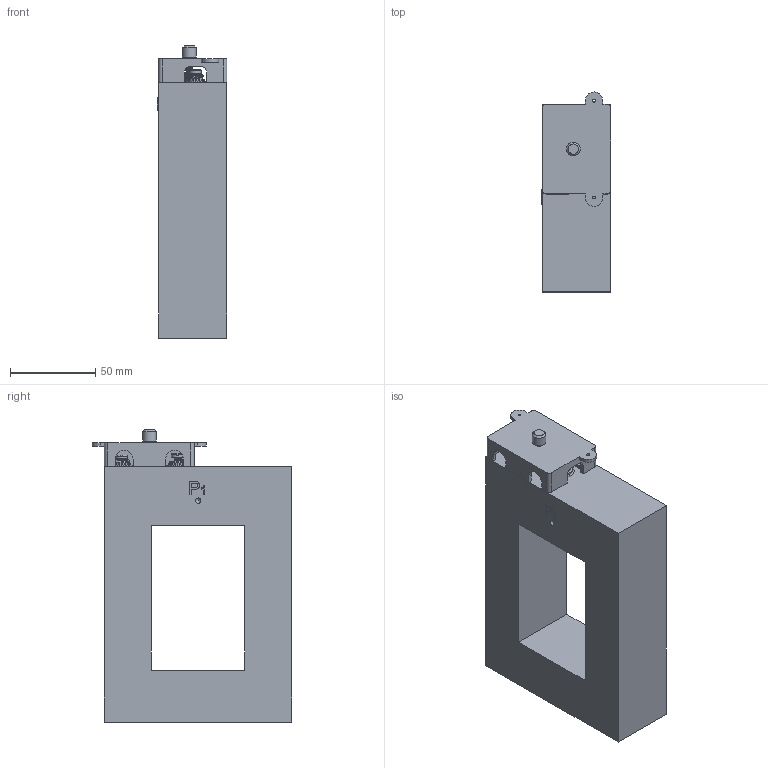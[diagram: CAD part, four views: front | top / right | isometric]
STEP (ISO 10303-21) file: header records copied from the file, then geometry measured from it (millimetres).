
FILE_DESCRIPTION(/* description */ (''),/* implementation_level */ '2;1');
FILE_NAME(/* name */ 'T:\EngMecanica\DESENHOS INVENTOR\Catalogo 2019\Arquivos STEP\KR-8555.stp',/* time_stamp */ '2026-08-04T15:38:13-03:00',/* author */ ('jose.luis'),/* organization */ (''),/* preprocessor_version */ 'ST-DEVELOPER v18.1',/* originating_system */ 'Autodesk Inventor 2021',/* authorisation */ '');
FILE_SCHEMA (('AUTOMOTIVE_DESIGN { 1 0 10303 214 3 1 1 }'));
Length unit declared in the file: millimetre
Products named in the file (1): Part2
Bounding box: 40.84 x 117.2 x 171.5 mm (x, y, z)
Volume: 482797.9 mm3; surface area: 67396 mm2
Topology: 18 solids, 18 shells, 327 faces, 853 edges, 561 vertices
Faces by surface type: cylinder 169, plane 119, torus 22, cone 10, bspline 6, sphere 1
Full cylindrical faces by diameter (mm): 1.7 x2, 3.9 x49, 4.9 x1, 5 x5, 7 x2, 8 x1, 11 x2, 13 x2
Entity records: 21276 total; most frequent: CARTESIAN_POINT 12751, ORIENTED_EDGE 1704, DIRECTION 1684, EDGE_CURVE 852, AXIS2_PLACEMENT_3D 636, VERTEX_POINT 561, LINE 412, VECTOR 412
